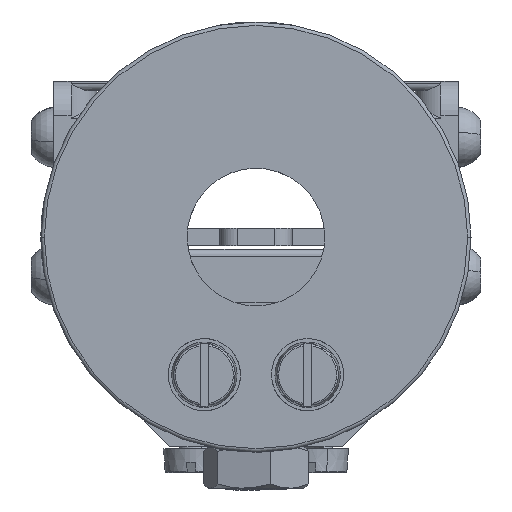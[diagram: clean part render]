
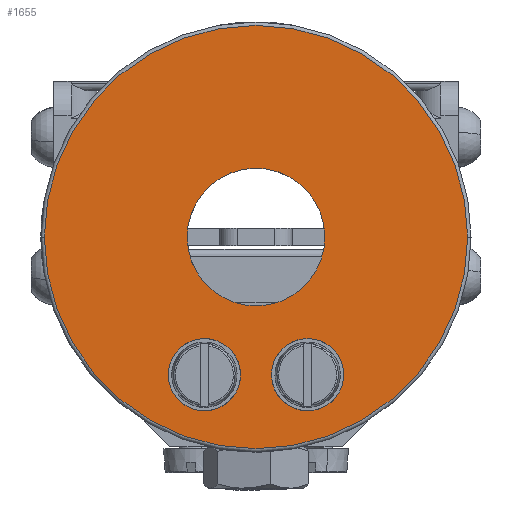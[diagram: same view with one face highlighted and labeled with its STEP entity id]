
A CAD part, front view. The second image highlights one B-rep face of the part: STEP entity #1655.
In plain terms, the highlighted planar face has unit normal (0, -1, 0).
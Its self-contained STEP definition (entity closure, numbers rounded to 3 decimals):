
#1595=AXIS2_PLACEMENT_3D('Plane Axis2P3D',#1592,#1593,#1594) ;
#1599=AXIS2_PLACEMENT_3D('Circle Axis2P3D',#1597,#1598,$) ;
#1608=AXIS2_PLACEMENT_3D('Circle Axis2P3D',#1606,#1607,$) ;
#1617=AXIS2_PLACEMENT_3D('Circle Axis2P3D',#1615,#1616,$) ;
#1626=AXIS2_PLACEMENT_3D('Circle Axis2P3D',#1624,#1625,$) ;
#1639=AXIS2_PLACEMENT_3D('Circle Axis2P3D',#1637,#1638,$) ;
#1648=AXIS2_PLACEMENT_3D('Circle Axis2P3D',#1646,#1647,$) ;
#1538=CARTESIAN_POINT('Control Point',(4.843,-3.,-62.319)) ;
#1539=CARTESIAN_POINT('Control Point',(4.527,-3.,-62.898)) ;
#1540=CARTESIAN_POINT('Control Point',(3.983,-3.,-63.353)) ;
#1541=CARTESIAN_POINT('Control Point',(3.275,-3.,-63.56)) ;
#1542=CARTESIAN_POINT('Control Point',(1.869,-3.,-63.383)) ;
#1543=CARTESIAN_POINT('Control Point',(0.959,-3.,-62.295)) ;
#1544=CARTESIAN_POINT('Control Point',(0.752,-3.,-61.588)) ;
#1545=CARTESIAN_POINT('Control Point',(0.841,-3.,-60.884)) ;
#1546=CARTESIAN_POINT('Control Point',(1.157,-3.,-60.305)) ;
#1547=CARTESIAN_POINT('Vertex',(4.843,-3.,-62.319)) ;
#1549=CARTESIAN_POINT('Vertex',(1.157,-3.,-60.305)) ;
#1575=CARTESIAN_POINT('Control Point',(1.157,-3.,-60.305)) ;
#1576=CARTESIAN_POINT('Control Point',(1.473,-3.,-59.726)) ;
#1577=CARTESIAN_POINT('Control Point',(2.017,-3.,-59.272)) ;
#1578=CARTESIAN_POINT('Control Point',(2.725,-3.,-59.064)) ;
#1579=CARTESIAN_POINT('Control Point',(4.131,-3.,-59.242)) ;
#1580=CARTESIAN_POINT('Control Point',(5.041,-3.,-60.329)) ;
#1581=CARTESIAN_POINT('Control Point',(5.248,-3.,-61.037)) ;
#1582=CARTESIAN_POINT('Control Point',(5.159,-3.,-61.74)) ;
#1583=CARTESIAN_POINT('Control Point',(4.843,-3.,-62.319)) ;
#1592=CARTESIAN_POINT('Axis2P3D Location',(0.,-3.,-53.312)) ;
#1597=CARTESIAN_POINT('Axis2P3D Location',(0.,-3.,-53.312)) ;
#1601=CARTESIAN_POINT('Vertex',(12.3,-3.,-53.312)) ;
#1603=CARTESIAN_POINT('Vertex',(-12.3,-3.,-53.312)) ;
#1606=CARTESIAN_POINT('Axis2P3D Location',(0.,-3.,-53.312)) ;
#1615=CARTESIAN_POINT('Axis2P3D Location',(-3.,-3.,-61.312)) ;
#1619=CARTESIAN_POINT('Vertex',(-1.157,-3.,-62.319)) ;
#1621=CARTESIAN_POINT('Vertex',(-4.843,-3.,-60.305)) ;
#1624=CARTESIAN_POINT('Axis2P3D Location',(-3.,-3.,-61.312)) ;
#1637=CARTESIAN_POINT('Axis2P3D Location',(0.,-3.,-53.312)) ;
#1641=CARTESIAN_POINT('Vertex',(-3.51,-3.,-51.395)) ;
#1643=CARTESIAN_POINT('Vertex',(3.51,-3.,-55.23)) ;
#1646=CARTESIAN_POINT('Axis2P3D Location',(0.,-3.,-53.312)) ;
#1593=DIRECTION('Axis2P3D Direction',(0.,1.,-0.)) ;
#1594=DIRECTION('Axis2P3D XDirection',(-1.,0.,0.)) ;
#1598=DIRECTION('Axis2P3D Direction',(0.,1.,-0.)) ;
#1607=DIRECTION('Axis2P3D Direction',(0.,1.,-0.)) ;
#1616=DIRECTION('Axis2P3D Direction',(0.,1.,-0.)) ;
#1625=DIRECTION('Axis2P3D Direction',(0.,1.,-0.)) ;
#1638=DIRECTION('Axis2P3D Direction',(0.,1.,-0.)) ;
#1647=DIRECTION('Axis2P3D Direction',(0.,1.,-0.)) ;
#1612=ORIENTED_EDGE('',*,*,#1605,.F.) ;
#1613=ORIENTED_EDGE('',*,*,#1610,.F.) ;
#1630=ORIENTED_EDGE('',*,*,#1623,.T.) ;
#1631=ORIENTED_EDGE('',*,*,#1628,.T.) ;
#1634=ORIENTED_EDGE('',*,*,#1584,.T.) ;
#1635=ORIENTED_EDGE('',*,*,#1551,.T.) ;
#1652=ORIENTED_EDGE('',*,*,#1645,.T.) ;
#1653=ORIENTED_EDGE('',*,*,#1650,.T.) ;
#1632=FACE_BOUND('',#1629,.T.) ;
#1636=FACE_BOUND('',#1633,.T.) ;
#1654=FACE_BOUND('',#1651,.T.) ;
#1655=ADVANCED_FACE('Brep With Voids',(#1614,#1632,#1636,#1654),#1596,.F.) ;
#1537=B_SPLINE_CURVE_WITH_KNOTS('',5,(#1538,#1539,#1540,#1541,#1542,#1543,#1544,#1545,#1546),.UNSPECIFIED.,.F.,.U.,(6,3,6),(-3.299,0.,3.299),.UNSPECIFIED.) ;
#1574=B_SPLINE_CURVE_WITH_KNOTS('',5,(#1575,#1576,#1577,#1578,#1579,#1580,#1581,#1582,#1583),.UNSPECIFIED.,.F.,.U.,(6,3,6),(-3.299,0.,3.299),.UNSPECIFIED.) ;
#1600=CIRCLE('generated circle',#1599,12.3) ;
#1609=CIRCLE('generated circle',#1608,12.3) ;
#1618=CIRCLE('generated circle',#1617,2.1) ;
#1627=CIRCLE('generated circle',#1626,2.1) ;
#1640=CIRCLE('generated circle',#1639,4.) ;
#1649=CIRCLE('generated circle',#1648,4.) ;
#1551=EDGE_CURVE('',#1548,#1550,#1537,.T.) ;
#1584=EDGE_CURVE('',#1550,#1548,#1574,.T.) ;
#1605=EDGE_CURVE('',#1602,#1604,#1600,.T.) ;
#1610=EDGE_CURVE('',#1604,#1602,#1609,.T.) ;
#1623=EDGE_CURVE('',#1620,#1622,#1618,.T.) ;
#1628=EDGE_CURVE('',#1622,#1620,#1627,.T.) ;
#1645=EDGE_CURVE('',#1642,#1644,#1640,.T.) ;
#1650=EDGE_CURVE('',#1644,#1642,#1649,.T.) ;
#1611=EDGE_LOOP('',(#1612,#1613)) ;
#1629=EDGE_LOOP('',(#1630,#1631)) ;
#1633=EDGE_LOOP('',(#1634,#1635)) ;
#1651=EDGE_LOOP('',(#1652,#1653)) ;
#1614=FACE_OUTER_BOUND('',#1611,.T.) ;
#1596=PLANE('',#1595) ;
#1548=VERTEX_POINT('',#1547) ;
#1550=VERTEX_POINT('',#1549) ;
#1602=VERTEX_POINT('',#1601) ;
#1604=VERTEX_POINT('',#1603) ;
#1620=VERTEX_POINT('',#1619) ;
#1622=VERTEX_POINT('',#1621) ;
#1642=VERTEX_POINT('',#1641) ;
#1644=VERTEX_POINT('',#1643) ;
